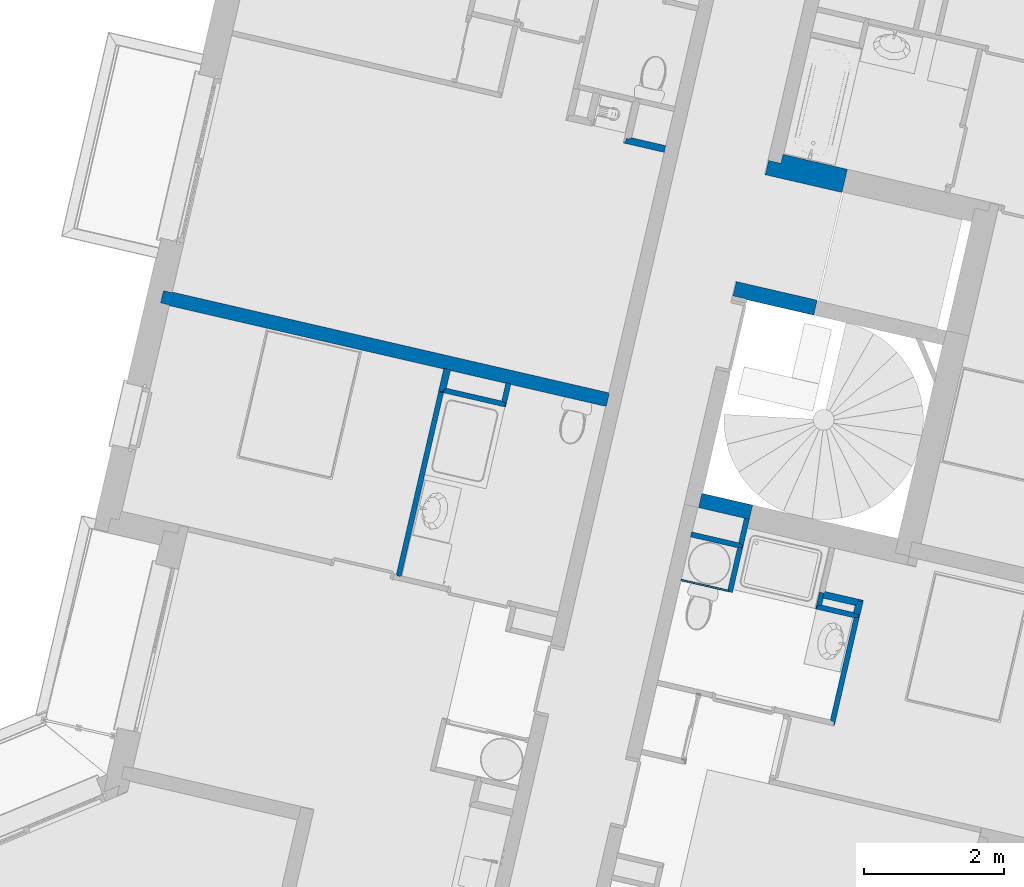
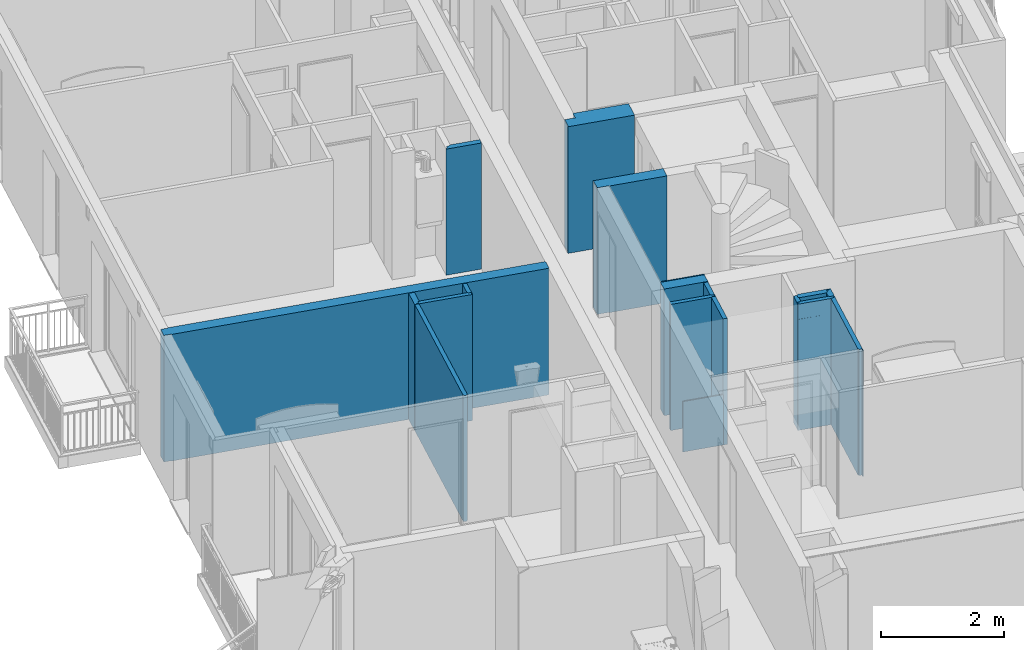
# One storey, part 46 of 90: 18 walls.
"""IFC2X3 building model written with IfcOpenShell, lengths in metres."""

from ifc_helpers import new_model, entity, si_unit, converted_unit, derived_unit, money_unit, direction, frame, origin_with_axes, place, context, subcontext, project, spatial, faceted_brep, material, material_list, type_object, element, save


model = new_model("IFC2X3")

# Units and contexts
model_context = context("Model", 3, precision=1e-05, world=origin_with_axes(), true_north=direction((0.0, 1.0)))
body_context = subcontext(model_context, "Body", "Model", "MODEL_VIEW")
ifc_project = project(units=[si_unit("LENGTHUNIT", "METRE"), si_unit("AREAUNIT", "SQUARE_METRE"), si_unit("VOLUMEUNIT", "CUBIC_METRE"), converted_unit("PLANEANGLEUNIT", "DEGREE", entity("IfcPlaneAngleMeasure", 0.0174532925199), si_unit("PLANEANGLEUNIT", "RADIAN"), dimensions=[0, 0, 0, 0, 0, 0, 0]), si_unit("SOLIDANGLEUNIT", "STERADIAN"), money_unit("EUR"), converted_unit("TIMEUNIT", "Year", entity("IfcTimeMeasure", 31556926.0), si_unit("TIMEUNIT", "SECOND"), dimensions=[0, 0, 1, 0, 0, 0, 0]), si_unit("MASSUNIT", "GRAM", prefix="KILO"), si_unit("THERMODYNAMICTEMPERATUREUNIT", "DEGREE_CELSIUS"), si_unit("LUMINOUSINTENSITYUNIT", "LUMEN"), si_unit("ENERGYUNIT", "JOULE", prefix="MEGA"), derived_unit("THERMALCONDUCTANCEUNIT", [(si_unit("POWERUNIT", "WATT"), 1), (si_unit("LENGTHUNIT", "METRE"), -1), (si_unit("THERMODYNAMICTEMPERATUREUNIT", "KELVIN"), -1)]), derived_unit("SPECIFICHEATCAPACITYUNIT", [(si_unit("ENERGYUNIT", "JOULE"), 1), (si_unit("MASSUNIT", "GRAM", prefix="KILO"), -1), (si_unit("THERMODYNAMICTEMPERATUREUNIT", "KELVIN"), -1)]), derived_unit("MASSDENSITYUNIT", [(si_unit("MASSUNIT", "GRAM", prefix="KILO"), 1), (si_unit("VOLUMEUNIT", "CUBIC_METRE"), -1)])], contexts=[model_context])

# Site, building, storey
site_placement = place(None, origin_with_axes())
site = spatial("IfcSite", under=ifc_project, at=site_placement, Name="Site", CompositionType="ELEMENT")
building_placement = place(site_placement, origin_with_axes())
building = spatial("IfcBuilding", under=site, at=building_placement, Name="Bâtiment", CompositionType="ELEMENT")
storey_placement = place(building_placement, frame((0.0, 0.0, 2.72), z_axis=(0.0, 0.0, 1.0), x_axis=(1.0, 0.0, 0.0)))
storey = spatial("IfcBuildingStorey", under=building, at=storey_placement, Name="R+1", CompositionType="ELEMENT", Elevation=2.72)

# Walls
ifc_material_1 = material(Name="Finition int - Plaque de plâtre")
ifc_material_2 = material(Name="Isolation - Laine de roche")
ifc_material_list_1 = material_list([ifc_material_1, ifc_material_2, ifc_material_1])
wall_type_1 = type_object("IfcWallType", Name="3 - Cloison 72mm Placostil 74", PredefinedType="USERDEFINED")
wall_1_placement = place(storey_placement, frame((-10.6895078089, -9.53207011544, 0.0), z_axis=(0.0, 0.0, 1.0), x_axis=(-0.224876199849, -0.974387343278, 0.0)))
element("IfcWall", 1, at=wall_1_placement, inside=storey, type_object=wall_type_1, material=ifc_material_list_1, Name="Cloison Placostil 72/48", ObjectType="PARTITIONING", context=body_context, shape_type="Brep", body=[
    faceted_brep([(0.63958884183, 0.0, 0.0), (0.0, 0.0, 0.0), (0.0, 0.0, 2.5), (0.63958884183, 4.47035120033e-09, 2.5), (0.63958884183, 4.47035120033e-09, 1.0), (0.63958884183, -0.013, 0.0), (0.0, -0.013, 0.0), (0.0, -0.0130000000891, 2.5), (0.63958884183, -0.0130000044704, 2.5)], [[[0, 1, 2, 3, 4]], [[5, 6, 1, 0]], [[6, 7, 2, 1]], [[3, 2, 7, 8]], [[5, 0, 4, 3, 8]], [[8, 7, 6, 5]]]),
    faceted_brep([(0.63958884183, -0.013, 0.0), (-0.0129999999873, -0.013, 0.0), (-0.0129999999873, -0.013, 2.5), (0.63958884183, -0.0130000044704, 2.5), (0.63958884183, -0.061, 0.0), (-0.0129999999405, -0.061, 0.0), (-0.0129999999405, -0.0609999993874, 2.5), (0.63958884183, -0.0609999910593, 2.5)], [[[0, 1, 2, 3]], [[4, 5, 1, 0]], [[5, 6, 2, 1]], [[3, 2, 6, 7]], [[4, 0, 3, 7]], [[7, 6, 5, 4]]]),
    faceted_brep([(0.63958884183, -0.0609999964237, 1.0), (0.61958884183, -0.0609999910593, 1.0), (0.61958884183, -0.061, 0.0), (0.0, -0.061, 0.0), (0.0, -0.0609999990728, 2.5), (0.63958884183, -0.0609999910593, 2.5), (0.61958884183, -0.074, 1.0), (0.63958884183, -0.074, 1.0), (0.61958884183, -0.074, 0.0), (0.0, -0.074, 0.0), (0.0, -0.074, 2.5), (0.63958884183, -0.074, 2.5)], [[[0, 1, 2, 3, 4, 5]], [[6, 1, 0, 7]], [[8, 2, 1, 6]], [[3, 2, 8, 9]], [[9, 10, 4, 3]], [[5, 4, 10, 11]], [[11, 7, 0, 5]], [[8, 6, 7, 11, 10, 9]]]),
])
wall_2_placement = place(storey_placement, frame((-9.0970696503, -10.5163824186, 0.0), z_axis=(0.0, 0.0, 1.0), x_axis=(-0.224876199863, -0.974387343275, 0.0)))
element("IfcWall", 2, at=wall_2_placement, inside=storey, type_object=wall_type_1, material=ifc_material_list_1, Name="Cloison Placostil 72/48", ObjectType="PARTITIONING", context=body_context, shape_type="Brep", body=[
    faceted_brep([(1.55916609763, 0.074, 0.0), (1.55916609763, 0.061, 0.0), (-0.060999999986, 0.061, 0.0), (-0.060999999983, 0.074, 0.0), (1.55916609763, 0.074, 2.5), (1.55916609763, 0.061, 2.5), (-0.060999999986, 0.061, 2.5), (-0.060999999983, 0.074, 2.5)], [[[0, 1, 2, 3]], [[1, 0, 4, 5]], [[1, 5, 6, 2]], [[7, 3, 2, 6]], [[4, 0, 3, 7]], [[5, 4, 7, 6]]]),
    faceted_brep([(1.51116609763, 0.061, 0.0), (1.51116609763, 0.013, 0.0), (-0.012999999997, 0.013, 0.0), (-0.012999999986, 0.061, 0.0), (1.51116609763, 0.061, 2.5), (1.51116609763, 0.013, 2.5), (-0.012999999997, 0.013, 2.5), (-0.012999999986, 0.061, 2.5)], [[[0, 1, 2, 3]], [[1, 0, 4, 5]], [[1, 5, 6, 2]], [[7, 3, 2, 6]], [[4, 0, 3, 7]], [[5, 4, 7, 6]]]),
    faceted_brep([(1.49816609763, 0.013, 0.0), (1.49816609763, 0.0, 0.0), (0.0, 0.0, 0.0), (0.0, 0.013, 0.0), (1.49816609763, 0.013, 2.5), (1.49816609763, 0.0, 2.5), (0.0, 0.0, 2.5), (0.0, 0.013, 2.5)], [[[0, 1, 2, 3]], [[1, 0, 4, 5]], [[1, 5, 6, 2]], [[7, 3, 2, 6]], [[4, 0, 3, 7]], [[5, 4, 7, 6]]]),
])
wall_3_placement = place(storey_placement, frame((-14.9622417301, -7.30105524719, 0.0), z_axis=(0.0, 0.0, 1.0), x_axis=(-0.224876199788, -0.974387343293, 0.0)))
element("IfcWall", 3, at=wall_3_placement, inside=storey, type_object=wall_type_1, material=ifc_material_list_1, Name="Cloison Placostil 72/48", ObjectType="PARTITIONING", context=body_context, shape_type="Brep", body=[
    faceted_brep([(2.68446720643, -0.013, 2.5), (2.68446720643, 0.0, 2.5), (0.0, 0.0, 2.5), (0.0, -0.013, 2.5), (2.68446720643, -0.013, 0.0), (2.68446720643, 0.0, 0.0), (0.0, 0.0, 0.0), (0.0, -0.013, 0.0)], [[[0, 1, 2, 3]], [[1, 0, 4, 5]], [[1, 5, 6, 2]], [[7, 3, 2, 6]], [[4, 0, 3, 7]], [[5, 4, 7, 6]]]),
    faceted_brep([(2.69746720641, -0.061, 2.5), (2.69746720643, -0.013, 2.5), (0.0, -0.013, 2.5), (0.0, -0.061, 2.5), (2.69746720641, -0.061, 0.0), (2.69746720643, -0.013, 0.0), (0.0, -0.013, 0.0), (0.0, -0.061, 0.0)], [[[0, 1, 2, 3]], [[1, 0, 4, 5]], [[1, 5, 6, 2]], [[7, 3, 2, 6]], [[4, 0, 3, 7]], [[5, 4, 7, 6]]]),
    faceted_brep([(2.68446720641, -0.074, 2.5), (2.68446720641, -0.061, 2.5), (0.0, -0.061, 2.5), (0.0, -0.074, 2.5), (2.68446720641, -0.074, 0.0), (2.68446720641, -0.061, 0.0), (0.0, -0.061, 0.0), (0.0, -0.074, 0.0)], [[[0, 1, 2, 3]], [[1, 0, 4, 5]], [[1, 5, 6, 2]], [[7, 3, 2, 6]], [[4, 0, 3, 7]], [[5, 4, 7, 6]]]),
])
ifc_material_3 = material(Name="Finition int - Enduit plâtre")
ifc_material_4 = material(Name="Béton")
ifc_material_list_2 = material_list([ifc_material_3, ifc_material_4, ifc_material_3])
wall_type_2 = type_object("IfcWallType", Name="2 - Murs Béton 18 + Enduit 2 Faces 200", PredefinedType="USERDEFINED")
wall_4_placement = place(storey_placement, frame((-19.2167882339, -5.96817026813, 0.0), z_axis=(0.0, 0.0, 1.0), x_axis=(0.97438734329, -0.224876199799, 0.0)))
element("IfcWall", 4, at=wall_4_placement, inside=storey, type_object=wall_type_2, material=ifc_material_list_2, Name="M_Ext-008", ObjectType="SOLIDWALL", context=body_context, shape_type="Brep", body=[
    faceted_brep([(6.7453103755, 0.19, 0.0), (0.34499998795, 0.19, 0.0), (0.34499998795, 0.19, 2.51), (6.7453103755, 0.19, 2.5100000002), (6.7453103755, 0.18, 0.0), (0.344999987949, 0.18, 0.0), (0.344999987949, 0.18, 2.51), (6.7453103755, 0.18, 2.5100000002)], [[[0, 1, 2, 3]], [[4, 5, 1, 0]], [[5, 6, 2, 1]], [[3, 2, 6, 7]], [[4, 0, 3, 7]], [[7, 6, 5, 4]]]),
    faceted_brep([(6.7553103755, 0.18, 0.0), (0.214999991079, 0.18, 0.0), (0.214999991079, 0.18, 2.50999999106), (6.7553103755, 0.18, 2.5100000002), (6.75531037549, 0.0, 0.0), (0.214999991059, 0.0, 0.0), (0.214999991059, 0.0, 2.50999999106), (6.75531037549, 0.0, 2.5100000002)], [[[0, 1, 2, 3]], [[4, 5, 1, 0]], [[5, 6, 2, 1]], [[3, 2, 6, 7]], [[4, 0, 3, 7]], [[7, 6, 5, 4]]]),
    faceted_brep([(5.35531037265, -0.01, 2.5), (5.28131037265, -0.01, 2.5), (5.28131037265, 0.0, 2.5), (5.35531037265, 0.0, 2.5), (5.28131037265, -0.01, 0.0), (5.35531037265, -0.01, 0.0), (6.74531037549, -0.01, 0.0), (6.74531037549, -0.01, 2.5100000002), (0.344999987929, -0.01, 2.51), (0.344999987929, -0.00999999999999, 0.0), (4.36931037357, -0.01, 0.0), (4.36931037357, -0.01, 2.5), (4.46931037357, -0.01, 2.5), (4.46931037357, -0.01, 0.0), (5.28131037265, 0.0, 0.0), (4.46931037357, 0.0, 0.0), (4.46931037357, 0.0, 2.5), (4.36931037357, 0.0, 2.5), (4.36931037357, 0.0, 0.0), (0.34499998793, 0.0, 0.0), (0.34499998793, 0.0, 2.51), (6.74531037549, 0.0, 2.5100000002), (6.74531037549, 0.0, 0.0), (5.35531037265, 0.0, 0.0)], [[[0, 1, 2, 3]], [[4, 1, 0, 5, 6, 7, 8, 9, 10, 11, 12, 13]], [[4, 14, 2, 1]], [[2, 14, 15, 16, 17, 18, 19, 20, 21, 22, 23, 3]], [[0, 3, 23, 5]], [[6, 5, 23, 22]], [[6, 22, 21, 7]], [[21, 20, 8, 7]], [[9, 8, 20, 19]], [[19, 18, 10, 9]], [[10, 18, 17, 11]], [[17, 16, 12, 11]], [[12, 16, 15, 13]], [[15, 14, 4, 13]]]),
])
wall_type_3 = type_object("IfcWallType", Name="2 - Murs Béton 20 + Enduit 2 Faces  220", PredefinedType="USERDEFINED")
wall_5_placement = place(storey_placement, frame((-9.62496216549, -5.98665355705, 0.0), z_axis=(0.0, 0.0, 1.0), x_axis=(-0.974387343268, 0.224876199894, 0.0)))
element("IfcWall", 5, at=wall_5_placement, inside=storey, type_object=wall_type_3, material=ifc_material_list_2, Name="M_Ext-009", ObjectType="SOLIDWALL", context=body_context, shape_type="Brep", body=[
    faceted_brep([(0.984999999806, 0.21, 0.0), (0.98499999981, 0.2, 0.0), (0.0, 0.2, 0.0), (0.0, 0.21, 0.0), (0.984999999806, 0.21, 2.51), (0.98499999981, 0.2, 2.51), (0.0, 0.2, 2.51), (0.0, 0.21, 2.51)], [[[0, 1, 2, 3]], [[1, 0, 4, 5]], [[1, 5, 6, 2]], [[7, 3, 2, 6]], [[4, 0, 3, 7]], [[5, 4, 7, 6]]]),
    faceted_brep([(1.18499999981, 0.2, 0.0), (1.18499999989, 0.0, 0.0), (0.0, 0.0, 0.0), (0.0, 0.2, 0.0), (1.18499999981, 0.2, 2.51), (1.18499999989, 0.0, 2.51), (0.0, 0.0, 2.51), (0.0, 0.2, 2.51)], [[[0, 1, 2, 3]], [[1, 0, 4, 5]], [[1, 5, 6, 2]], [[7, 3, 2, 6]], [[4, 0, 3, 7]], [[5, 4, 7, 6]]]),
    faceted_brep([(1.19499999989, 0.0, 0.0), (1.19499999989, -0.01, 0.0), (0.0, -0.01, 0.0), (0.0, 0.0, 0.0), (1.19499999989, 0.0, 2.51), (1.19499999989, -0.01, 2.51), (0.0, -0.01, 2.51), (0.0, 0.0, 2.51)], [[[0, 1, 2, 3]], [[1, 0, 4, 5]], [[1, 5, 6, 2]], [[7, 3, 2, 6]], [[4, 0, 3, 7]], [[5, 4, 7, 6]]]),
])
wall_type_4 = type_object("IfcWallType", Name="3 - Cloison Gaine Technique 72mm 74", PredefinedType="USERDEFINED")
wall_6_placement = place(storey_placement, frame((-9.58988042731, -10.1481290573, 0.0), z_axis=(0.0, 0.0, 1.0), x_axis=(-0.224876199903, -0.974387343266, 0.0)))
element("IfcWall", 6, at=wall_6_placement, inside=storey, type_object=wall_type_4, material=ifc_material_list_1, Name="Cloison Placostil 72/48", ObjectType="PARTITIONING", context=body_context, shape_type="Brep", body=[
    faceted_brep([(0.173999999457, 0.074, 0.0), (0.173999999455, 0.061, 0.0), (0.0610000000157, 0.061, 0.0), (0.0610000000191, 0.074, 0.0), (0.173999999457, 0.074, 2.5), (0.173999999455, 0.061, 2.5), (0.0610000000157, 0.061, 2.5), (0.0610000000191, 0.074, 2.5)], [[[0, 1, 2, 3]], [[1, 0, 4, 5]], [[1, 5, 6, 2]], [[7, 3, 2, 6]], [[4, 0, 3, 7]], [[5, 4, 7, 6]]]),
    faceted_brep([(0.186999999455, 0.061, 0.0), (0.186999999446, 0.013, 0.0), (0.0, 0.013, 0.0), (0.0, 0.061, 0.0), (0.186999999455, 0.061, 2.5), (0.186999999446, 0.013, 2.5), (0.0, 0.013, 2.5), (0.0, 0.061, 2.5)], [[[0, 1, 2, 3]], [[1, 0, 4, 5]], [[1, 5, 6, 2]], [[7, 3, 2, 6]], [[4, 0, 3, 7]], [[5, 4, 7, 6]]]),
    faceted_brep([(0.234999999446, 0.013, 0.0), (0.234999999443, 0.0, 0.0), (0.0, 0.0, 0.0), (0.0, 0.013, 0.0), (0.234999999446, 0.013, 2.5), (0.234999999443, 0.0, 2.5), (0.0, 0.0, 2.5), (0.0, 0.013, 2.5)], [[[0, 1, 2, 3]], [[1, 0, 4, 5]], [[1, 5, 6, 2]], [[7, 3, 2, 6]], [[4, 0, 3, 7]], [[5, 4, 7, 6]]]),
])
wall_7_placement = place(storey_placement, frame((-9.64564972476, -10.3897771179, 0.0), z_axis=(0.0, 0.0, 1.0), x_axis=(0.974387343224, -0.224876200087, 0.0)))
element("IfcWall", 7, at=wall_7_placement, inside=storey, type_object=wall_type_4, material=ifc_material_list_1, Name="Cloison Placostil 72/48", ObjectType="PARTITIONING", context=body_context, shape_type="Brep", body=[
    faceted_brep([(0.637000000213, 0.074, 0.0), (0.637000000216, 0.061, 0.0), (0.626000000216, 0.061, 0.0), (0.626000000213, 0.074, 0.0), (0.637000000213, 0.074, 2.5), (0.637000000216, 0.061, 2.5), (0.626000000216, 0.061, 2.5), (0.626000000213, 0.074, 2.5)], [[[0, 1, 2, 3]], [[1, 0, 4, 5]], [[1, 5, 6, 2]], [[7, 3, 2, 6]], [[4, 0, 3, 7]], [[5, 4, 7, 6]]]),
    faceted_brep([(0.552000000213, 0.074, 0.0), (0.552000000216, 0.061, 0.0), (0.0609999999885, 0.061, 0.0), (0.0609999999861, 0.074, 0.0), (0.552000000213, 0.074, 2.5), (0.552000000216, 0.061, 2.5), (0.0609999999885, 0.061, 2.5), (0.0609999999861, 0.074, 2.5)], [[[0, 1, 2, 3]], [[1, 0, 4, 5]], [[1, 5, 6, 2]], [[7, 3, 2, 6]], [[4, 0, 3, 7]], [[5, 4, 7, 6]]]),
    faceted_brep([(0.624000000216, 0.061, 0.0), (0.624000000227, 0.013, 0.0), (0.0129999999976, 0.013, 0.0), (0.0129999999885, 0.061, 0.0), (0.624000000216, 0.061, 2.5), (0.624000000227, 0.013, 2.5), (0.0129999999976, 0.013, 2.5), (0.0129999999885, 0.061, 2.5)], [[[0, 1, 2, 3]], [[1, 0, 4, 5]], [[1, 5, 6, 2]], [[7, 3, 2, 6]], [[4, 0, 3, 7]], [[5, 4, 7, 6]]]),
    faceted_brep([(0.0, 0.00317540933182, 2.5), (0.56300000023, 0.0, 2.5), (0.57600000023, 0.0, 2.5), (0.576000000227, 0.013, 2.5), (0.0, 0.013, 2.5), (0.0, 0.00317540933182, 2.2), (0.56300000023, 0.0, 2.2), (0.0, 0.0, 2.2), (0.0, 0.0, 0.0), (0.57600000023, 0.0, 0.0), (0.576000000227, 0.013, 0.0), (0.0, 0.013, 0.0)], [[[0, 1, 2, 3, 4]], [[1, 0, 5, 6]], [[6, 7, 8, 9, 2, 1]], [[9, 10, 3, 2]], [[3, 10, 11, 4]], [[5, 0, 4, 11, 8, 7]], [[7, 6, 5]], [[10, 9, 8, 11]]]),
])
wall_8_placement = place(storey_placement, frame((-10.689507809, -9.53207011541, 0.0), z_axis=(0.0, 0.0, 1.0), x_axis=(-0.974387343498, 0.224876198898, 0.0)))
element("IfcWall", 8, at=wall_8_placement, inside=storey, type_object=wall_type_4, material=ifc_material_list_1, Name="Cloison Placostil 72/48", ObjectType="PARTITIONING", context=body_context, shape_type="Brep", body=[
    faceted_brep([(0.764999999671, 0.0, 2.5), (0.0609999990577, 0.0, 2.5), (0.060999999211, -0.013, 2.5), (0.764999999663, -0.013, 2.5), (0.764999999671, 0.0, 0.0), (0.0609999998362, 0.0, 0.0), (0.0609999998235, -0.013, 0.0), (0.764999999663, -0.013, 0.0)], [[[0, 1, 2, 3]], [[4, 5, 1, 0]], [[5, 6, 2, 1]], [[3, 2, 6, 7]], [[4, 0, 3, 7]], [[7, 6, 5, 4]]]),
    faceted_brep([(-1.76479275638e-10, -0.013, 0.0), (0.0129999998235, -0.013, 0.0), (0.0129999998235, -0.013, 2.5), (-1.76479275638e-10, -0.013, 2.5), (-1.63790758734e-10, 0.0, 0.0), (0.0129999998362, 0.0, 0.0), (0.0129999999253, 0.0, 2.5), (-1.63790758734e-10, 0.0, 2.5)], [[[0, 1, 2, 3]], [[4, 5, 1, 0]], [[5, 6, 2, 1]], [[3, 2, 6, 7]], [[4, 0, 3, 7]], [[7, 6, 5, 4]]]),
    faceted_brep([(0.0129999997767, -0.061, 2.5), (0.764999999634, -0.061, 2.5), (0.764999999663, -0.013, 2.5), (0.0129999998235, -0.013, 2.5), (0.0129999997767, -0.061, 0.0), (0.764999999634, -0.061, 0.0), (0.764999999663, -0.013, 0.0), (0.0129999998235, -0.013, 0.0)], [[[0, 1, 2, 3]], [[4, 5, 1, 0]], [[6, 2, 1, 5]], [[3, 2, 6, 7]], [[7, 4, 0, 3]], [[7, 6, 5, 4]]]),
    faceted_brep([(0.764999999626, -0.074, 2.5), (0.764999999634, -0.061, 2.5), (0.0609999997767, -0.061, 2.5), (0.060999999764, -0.074, 2.5), (0.764999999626, -0.074, 0.0), (0.764999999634, -0.061, 0.0), (0.0609999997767, -0.061, 0.0), (0.060999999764, -0.074, 0.0)], [[[0, 1, 2, 3]], [[1, 0, 4, 5]], [[1, 5, 6, 2]], [[7, 3, 2, 6]], [[4, 0, 3, 7]], [[5, 4, 7, 6]]]),
])
wall_9_placement = place(storey_placement, frame((-10.5919115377, -9.10918600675, 0.0), z_axis=(0.0, 0.0, 1.0), x_axis=(-0.224876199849, -0.974387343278, 0.0)))
element("IfcWall", 9, at=wall_9_placement, inside=storey, type_object=wall_type_4, material=ifc_material_list_1, Name="Cloison Placostil 72/48", ObjectType="PARTITIONING", context=body_context, shape_type="Brep", body=[
    faceted_brep([(0.0, -0.013, 2.5), (0.421000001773, -0.013, 2.5), (0.421000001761, 0.0, 2.5), (0.0, 0.0, 2.5), (0.0, -0.013, 0.0), (0.421000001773, -0.013, 0.0), (0.421000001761, 0.0, 0.0), (0.0, 0.0, 0.0)], [[[0, 1, 2, 3]], [[4, 5, 1, 0]], [[6, 2, 1, 5]], [[3, 2, 6, 7]], [[7, 4, 0, 3]], [[7, 6, 5, 4]]]),
    faceted_brep([(0.37300000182, -0.061, 2.5), (0.373000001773, -0.013, 2.5), (0.0, -0.013, 2.5), (0.0, -0.061, 2.5), (0.37300000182, -0.061, 0.0), (0.373000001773, -0.013, 0.0), (0.0, -0.013, 0.0), (0.0, -0.061, 0.0)], [[[0, 1, 2, 3]], [[1, 0, 4, 5]], [[1, 5, 6, 2]], [[7, 3, 2, 6]], [[4, 0, 3, 7]], [[5, 4, 7, 6]]]),
    faceted_brep([(0.360000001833, -0.074, 2.5), (0.36000000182, -0.061, 2.5), (0.0, -0.061, 2.5), (0.0, -0.074, 2.5), (0.360000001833, -0.074, 0.0), (0.36000000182, -0.061, 0.0), (0.0, -0.061, 0.0), (0.0, -0.074, 0.0)], [[[0, 1, 2, 3]], [[1, 0, 4, 5]], [[1, 5, 6, 2]], [[7, 3, 2, 6]], [[4, 0, 3, 7]], [[5, 4, 7, 6]]]),
])
wall_10_placement = place(storey_placement, frame((-14.9388564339, -7.306452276, 0.0), z_axis=(0.0, 0.0, 1.0), x_axis=(0.974387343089, -0.22487620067, 0.0)))
element("IfcWall", 10, at=wall_10_placement, inside=storey, type_object=wall_type_4, material=ifc_material_list_1, Name="Cloison Placostil 72/48", ObjectType="PARTITIONING", context=body_context, shape_type="Brep", body=[
    faceted_brep([(0.824999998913, 0.074, 0.0), (0.82499999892, 0.061, 0.0), (0.0, 0.061, 0.0), (0.0, 0.074, 0.0), (0.824999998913, 0.074, 2.5), (0.82499999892, 0.061, 2.5), (0.0, 0.061, 2.5), (0.0, 0.074, 2.5)], [[[0, 1, 2, 3]], [[1, 0, 4, 5]], [[1, 5, 6, 2]], [[7, 3, 2, 6]], [[4, 0, 3, 7]], [[5, 4, 7, 6]]]),
    faceted_brep([(0.87299999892, 0.061, 0.0), (0.872999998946, 0.013, 0.0), (-0.0260000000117, 0.013, 0.0), (-0.026000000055, 0.061, 0.0), (0.87299999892, 0.061, 2.5), (0.872999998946, 0.013, 2.5), (-0.0260000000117, 0.013, 2.5), (-0.026000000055, 0.061, 2.5)], [[[0, 1, 2, 3]], [[1, 0, 4, 5]], [[1, 5, 6, 2]], [[7, 3, 2, 6]], [[4, 0, 3, 7]], [[5, 4, 7, 6]]]),
    faceted_brep([(0.885999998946, 0.013, 0.0), (0.885999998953, 0.0, 0.0), (-0.074, 0.0, 0.0), (-0.0740000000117, 0.013, 0.0), (0.885999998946, 0.013, 2.5), (0.885999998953, 0.0, 2.5), (-0.074, 0.0, 2.5), (-0.0740000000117, 0.013, 2.5)], [[[0, 1, 2, 3]], [[1, 0, 4, 5]], [[1, 5, 6, 2]], [[7, 3, 2, 6]], [[4, 0, 3, 7]], [[5, 4, 7, 6]]]),
])
wall_11_placement = place(storey_placement, frame((-14.075549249, -7.50569258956, 0.0), z_axis=(0.0, 0.0, 1.0), x_axis=(0.224876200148, 0.97438734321, 0.0)))
element("IfcWall", 11, at=wall_11_placement, inside=storey, type_object=wall_type_4, material=ifc_material_list_1, Name="Cloison Placostil 72/48", ObjectType="PARTITIONING", context=body_context, shape_type="Brep", body=[
    faceted_brep([(0.342000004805, 0.074, 0.0), (0.342000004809, 0.061, 0.0), (0.0740000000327, 0.061, 0.0), (0.0740000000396, 0.074, 0.0), (0.342000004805, 0.074, 2.5), (0.342000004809, 0.061, 2.5), (0.0740000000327, 0.061, 2.5), (0.0740000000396, 0.074, 2.5)], [[[0, 1, 2, 3]], [[1, 0, 4, 5]], [[1, 5, 6, 2]], [[7, 3, 2, 6]], [[4, 0, 3, 7]], [[5, 4, 7, 6]]]),
    faceted_brep([(0.342000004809, 0.061, 0.0), (0.342000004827, 0.013, 0.0), (0.061000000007, 0.013, 0.0), (0.0610000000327, 0.061, 0.0), (0.342000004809, 0.061, 2.5), (0.342000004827, 0.013, 2.5), (0.061000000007, 0.013, 2.5), (0.0610000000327, 0.061, 2.5)], [[[0, 1, 2, 3]], [[1, 0, 4, 5]], [[1, 5, 6, 2]], [[7, 3, 2, 6]], [[4, 0, 3, 7]], [[5, 4, 7, 6]]]),
    faceted_brep([(0.342000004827, 0.013, 0.0), (0.342000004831, 0.0, 0.0), (0.013, 0.0, 0.0), (0.013000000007, 0.013, 0.0), (0.342000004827, 0.013, 2.5), (0.342000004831, 0.0, 2.5), (0.013, 0.0, 2.5), (0.013000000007, 0.013, 2.5)], [[[0, 1, 2, 3]], [[1, 0, 4, 5]], [[1, 5, 6, 2]], [[7, 3, 2, 6]], [[4, 0, 3, 7]], [[5, 4, 7, 6]]]),
])
ifc_material_list_3 = material_list([ifc_material_1, ifc_material_1, ifc_material_2, ifc_material_1, ifc_material_1])
wall_type_5 = type_object("IfcWallType", Name="3 - Cloison Gaine Technique 98mm 100", PredefinedType="USERDEFINED")
wall_12_placement = place(storey_placement, frame((-9.08132648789, -10.3414419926, 0.0), z_axis=(0.0, 0.0, 1.0), x_axis=(-0.224876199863, -0.974387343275, 0.0)))
element("IfcWall", 12, at=wall_12_placement, inside=storey, type_object=wall_type_5, material=ifc_material_list_3, Name="Cloison 98 isolée", ObjectType="PARTITIONING", context=body_context, shape_type="Brep", body=[
    faceted_brep([(0.0999999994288, 0.1, 0.0), (0.0999999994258, 0.087, 0.0), (-0.0999999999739, 0.087, 0.0), (-0.09999999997, 0.1, 0.0), (0.0999999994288, 0.1, 2.5), (0.0999999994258, 0.087, 2.5), (-0.0999999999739, 0.087, 2.5), (-0.09999999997, 0.1, 2.5)], [[[0, 1, 2, 3]], [[1, 0, 4, 5]], [[1, 5, 6, 2]], [[7, 3, 2, 6]], [[4, 0, 3, 7]], [[5, 4, 7, 6]]]),
    faceted_brep([(0.112999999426, 0.087, 0.0), (0.112999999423, 0.074, 0.0), (-0.0869999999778, 0.074, 0.0), (-0.0869999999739, 0.087, 0.0), (0.112999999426, 0.087, 2.5), (0.112999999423, 0.074, 2.5), (-0.0869999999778, 0.074, 2.5), (-0.0869999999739, 0.087, 2.5)], [[[0, 1, 2, 3]], [[1, 0, 4, 5]], [[1, 5, 6, 2]], [[7, 3, 2, 6]], [[4, 0, 3, 7]], [[5, 4, 7, 6]]]),
    faceted_brep([(0.112999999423, 0.074, 0.0), (0.112999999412, 0.026, 0.0), (-0.0739999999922, 0.026, 0.0), (-0.0739999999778, 0.074, 0.0), (0.112999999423, 0.074, 2.5), (0.112999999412, 0.026, 2.5), (-0.0739999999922, 0.026, 2.5), (-0.0739999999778, 0.074, 2.5)], [[[0, 1, 2, 3]], [[1, 0, 4, 5]], [[1, 5, 6, 2]], [[7, 3, 2, 6]], [[4, 0, 3, 7]], [[5, 4, 7, 6]]]),
    faceted_brep([(0.112999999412, 0.026, 0.0), (0.112999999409, 0.013, 0.0), (-0.0259999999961, 0.013, 0.0), (-0.0259999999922, 0.026, 0.0), (0.112999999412, 0.026, 2.5), (0.112999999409, 0.013, 2.5), (-0.0259999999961, 0.013, 2.5), (-0.0259999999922, 0.026, 2.5)], [[[0, 1, 2, 3]], [[1, 0, 4, 5]], [[1, 5, 6, 2]], [[7, 3, 2, 6]], [[4, 0, 3, 7]], [[5, 4, 7, 6]]]),
    faceted_brep([(0.0999999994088, 0.013, 0.0), (0.0999999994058, 0.0, 0.0), (-0.013, 0.0, 0.0), (-0.0129999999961, 0.013, 0.0), (0.0999999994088, 0.013, 2.5), (0.0999999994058, 0.0, 2.5), (-0.013, 0.0, 2.5), (-0.0129999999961, 0.013, 2.5)], [[[0, 1, 2, 3]], [[1, 0, 4, 5]], [[1, 5, 6, 2]], [[7, 3, 2, 6]], [[4, 0, 3, 7]], [[5, 4, 7, 6]]]),
])
wall_13_placement = place(storey_placement, frame((-9.60652126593, -10.2202337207, 0.0), z_axis=(0.0, 0.0, 1.0), x_axis=(0.974387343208, -0.224876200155, 0.0)))
element("IfcWall", 13, at=wall_13_placement, inside=storey, type_object=wall_type_5, material=ifc_material_list_3, Name="Cloison 98 isolée", ObjectType="PARTITIONING", context=body_context, shape_type="Brep", body=[
    faceted_brep([(0.626000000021, 0.1, 0.0), (0.626000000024, 0.087, 0.0), (0.0739999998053, 0.087, 0.0), (0.0739999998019, 0.1, 0.0), (0.626000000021, 0.1, 2.5), (0.626000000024, 0.087, 2.5), (0.0739999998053, 0.087, 2.5), (0.0739999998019, 0.1, 2.5)], [[[0, 1, 2, 3]], [[1, 0, 4, 5]], [[1, 5, 6, 2]], [[7, 3, 2, 6]], [[4, 0, 3, 7]], [[5, 4, 7, 6]]]),
    faceted_brep([(0.613000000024, 0.087, 0.0), (0.613000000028, 0.074, 0.0), (0.0609999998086, 0.074, 0.0), (0.0609999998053, 0.087, 0.0), (0.613000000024, 0.087, 2.5), (0.613000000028, 0.074, 2.5), (0.0609999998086, 0.074, 2.5), (0.0609999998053, 0.087, 2.5)], [[[0, 1, 2, 3]], [[1, 0, 4, 5]], [[1, 5, 6, 2]], [[7, 3, 2, 6]], [[4, 0, 3, 7]], [[5, 4, 7, 6]]]),
    faceted_brep([(0.565000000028, 0.074, 0.0), (0.565000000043, 0.026, 0.0), (0.060999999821, 0.026, 0.0), (0.0609999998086, 0.074, 0.0), (0.565000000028, 0.074, 2.5), (0.565000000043, 0.026, 2.5), (0.060999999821, 0.026, 2.5), (0.0609999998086, 0.074, 2.5)], [[[0, 1, 2, 3]], [[1, 0, 4, 5]], [[1, 5, 6, 2]], [[7, 3, 2, 6]], [[4, 0, 3, 7]], [[5, 4, 7, 6]]]),
    faceted_brep([(0.552000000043, 0.026, 0.0), (0.552000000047, 0.013, 0.0), (0.0609999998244, 0.013, 0.0), (0.060999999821, 0.026, 0.0), (0.552000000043, 0.026, 2.5), (0.552000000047, 0.013, 2.5), (0.0609999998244, 0.013, 2.5), (0.060999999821, 0.026, 2.5)], [[[0, 1, 2, 3]], [[1, 0, 4, 5]], [[1, 5, 6, 2]], [[7, 3, 2, 6]], [[4, 0, 3, 7]], [[5, 4, 7, 6]]]),
    faceted_brep([(0.539000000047, 0.013, 0.0), (0.539000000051, 0.0, 0.0), (0.0739999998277, 0.0, 0.0), (0.0739999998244, 0.013, 0.0), (0.539000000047, 0.013, 2.5), (0.539000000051, 0.0, 2.5), (0.0739999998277, 0.0, 2.5), (0.0739999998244, 0.013, 2.5)], [[[0, 1, 2, 3]], [[1, 0, 4, 5]], [[1, 5, 6, 2]], [[7, 3, 2, 6]], [[4, 0, 3, 7]], [[5, 4, 7, 6]]]),
])
wall_14_placement = place(storey_placement, frame((-14.8619487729, -6.97321180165, 0.0), z_axis=(0.0, 0.0, 1.0), x_axis=(-0.224876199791, -0.974387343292, 0.0)))
element("IfcWall", 14, at=wall_14_placement, inside=storey, type_object=wall_type_5, material=ifc_material_list_3, Name="Cloison 98 isolée", ObjectType="PARTITIONING", context=body_context, shape_type="Brep", body=[
    faceted_brep([(0.281000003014, -0.013, 2.5), (0.281000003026, 0.0, 2.5), (-1.01377395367e-09, 0.0, 2.5), (-1.0138840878e-09, -0.013, 2.5), (0.281000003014, -0.013, 0.0), (0.281000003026, 0.0, 0.0), (-1.01377395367e-09, 0.0, 0.0), (-1.0138840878e-09, -0.013, 0.0)], [[[0, 1, 2, 3]], [[1, 0, 4, 5]], [[1, 5, 6, 2]], [[7, 3, 2, 6]], [[4, 0, 3, 7]], [[5, 4, 7, 6]]]),
    faceted_brep([(0.281000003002, -0.026, 2.5), (0.281000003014, -0.013, 2.5), (-1.0138840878e-09, -0.013, 2.5), (-1.01399422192e-09, -0.026, 2.5), (0.281000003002, -0.026, 0.0), (0.281000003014, -0.013, 0.0), (-1.0138840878e-09, -0.013, 0.0), (-1.01399422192e-09, -0.026, 0.0)], [[[0, 1, 2, 3]], [[1, 0, 4, 5]], [[1, 5, 6, 2]], [[7, 3, 2, 6]], [[4, 0, 3, 7]], [[5, 4, 7, 6]]]),
    faceted_brep([(0.329000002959, -0.074, 2.5), (0.329000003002, -0.026, 2.5), (-1.01399422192e-09, -0.026, 2.5), (-1.01439567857e-09, -0.074, 2.5), (0.329000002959, -0.074, 0.0), (0.329000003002, -0.026, 0.0), (-1.01399422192e-09, -0.026, 0.0), (-1.01439567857e-09, -0.074, 0.0)], [[[0, 1, 2, 3]], [[1, 0, 4, 5]], [[1, 5, 6, 2]], [[7, 3, 2, 6]], [[4, 0, 3, 7]], [[5, 4, 7, 6]]]),
    faceted_brep([(0.342000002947, -0.087, 2.5), (0.342000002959, -0.074, 2.5), (-1.01439567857e-09, -0.074, 2.5), (-1.01450581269e-09, -0.087, 2.5), (0.342000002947, -0.087, 0.0), (0.342000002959, -0.074, 0.0), (-1.01439567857e-09, -0.074, 0.0), (-1.01450581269e-09, -0.087, 0.0)], [[[0, 1, 2, 3]], [[1, 0, 4, 5]], [[1, 5, 6, 2]], [[7, 3, 2, 6]], [[4, 0, 3, 7]], [[5, 4, 7, 6]]]),
    faceted_brep([(0.342000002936, -0.1, 2.5), (0.342000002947, -0.087, 2.5), (-1.01450581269e-09, -0.087, 2.5), (-1.01461417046e-09, -0.1, 2.5), (0.342000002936, -0.1, 0.0), (0.342000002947, -0.087, 0.0), (-1.01450581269e-09, -0.087, 0.0), (-1.01461417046e-09, -0.1, 0.0)], [[[0, 1, 2, 3]], [[1, 0, 4, 5]], [[1, 5, 6, 2]], [[7, 3, 2, 6]], [[4, 0, 3, 7]], [[5, 4, 7, 6]]]),
])
wall_15_placement = place(storey_placement, frame((-11.808762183, -3.86489545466, 0.0), z_axis=(0.0, 0.0, 1.0), x_axis=(-0.974387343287, 0.224876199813, 0.0)))
element("IfcWall", 15, at=wall_15_placement, inside=storey, type_object=wall_type_5, material=ifc_material_list_3, Name="Cloison 98 isolée", ObjectType="PARTITIONING", context=body_context, shape_type="Brep", body=[
    faceted_brep([(0.599999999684, -0.013, 2.5), (0.599999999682, 0.0, 2.5), (0.0, 0.0, 2.5), (0.0, -0.013, 2.5), (0.599999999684, -0.013, 0.0), (0.599999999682, 0.0, 0.0), (0.0, 0.0, 0.0), (0.0, -0.013, 0.0)], [[[0, 1, 2, 3]], [[1, 0, 4, 5]], [[1, 5, 6, 2]], [[7, 3, 2, 6]], [[4, 0, 3, 7]], [[5, 4, 7, 6]]]),
    faceted_brep([(0.586999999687, -0.026, 2.5), (0.586999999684, -0.013, 2.5), (0.0, -0.013, 2.5), (0.0, -0.026, 2.5), (0.586999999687, -0.026, 0.0), (0.586999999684, -0.013, 0.0), (0.0, -0.013, 0.0), (0.0, -0.026, 0.0)], [[[0, 1, 2, 3]], [[1, 0, 4, 5]], [[1, 5, 6, 2]], [[7, 3, 2, 6]], [[4, 0, 3, 7]], [[5, 4, 7, 6]]]),
    faceted_brep([(0.573999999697, -0.074, 2.5), (0.573999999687, -0.026, 2.5), (0.0, -0.026, 2.5), (0.0, -0.074, 2.5), (0.573999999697, -0.074, 0.0), (0.573999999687, -0.026, 0.0), (0.0, -0.026, 0.0), (0.0, -0.074, 0.0)], [[[0, 1, 2, 3]], [[1, 0, 4, 5]], [[1, 5, 6, 2]], [[7, 3, 2, 6]], [[4, 0, 3, 7]], [[5, 4, 7, 6]]]),
    faceted_brep([(0.5259999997, -0.087, 2.5), (0.525999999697, -0.074, 2.5), (0.0, -0.074, 2.5), (0.0, -0.087, 2.5), (0.5259999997, -0.087, 0.0), (0.525999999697, -0.074, 0.0), (0.0, -0.074, 0.0), (0.0, -0.087, 0.0)], [[[0, 1, 2, 3]], [[1, 0, 4, 5]], [[1, 5, 6, 2]], [[7, 3, 2, 6]], [[4, 0, 3, 7]], [[5, 4, 7, 6]]]),
    faceted_brep([(0.512999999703, -0.1, 2.5), (0.5129999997, -0.087, 2.5), (0.0, -0.087, 2.5), (0.0, -0.1, 2.5), (0.512999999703, -0.1, 0.0), (0.5129999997, -0.087, 0.0), (0.0, -0.087, 0.0), (0.0, -0.1, 0.0)], [[[0, 1, 2, 3]], [[1, 0, 4, 5]], [[1, 5, 6, 2]], [[7, 3, 2, 6]], [[4, 0, 3, 7]], [[5, 4, 7, 6]]]),
])
ifc_material_list_4 = material_list([ifc_material_4, ifc_material_3])
wall_type_6 = type_object("IfcWallType", Name="2 - Murs Béton 20 + Enduit 1 Face  210", PredefinedType="USERDEFINED")
wall_16_placement = place(storey_placement, frame((-10.5469362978, -8.91430853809, 0.0), z_axis=(0.0, 0.0, 1.0), x_axis=(-0.974387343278, 0.224876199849, 0.0)))
element("IfcWall", 16, at=wall_16_placement, inside=storey, type_object=wall_type_6, material=ifc_material_list_4, Name="M_Ext-009", ObjectType="SOLIDWALL", context=body_context, shape_type="Brep", body=[
    faceted_brep([(0.745000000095, 1.89254656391e-09, 2.51), (0.0, 1.63015201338e-09, 2.51), (0.0, 0.0, 0.0), (0.745000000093, 0.0, 0.0), (0.0, 0.2, 2.51), (0.745000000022, 0.2, 2.51), (0.0, 0.2, 0.0), (0.745000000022, 0.2, 0.0)], [[[0, 1, 2, 3]], [[4, 1, 0, 5]], [[1, 4, 6, 2]], [[7, 3, 2, 6]], [[5, 0, 3, 7]], [[4, 5, 7, 6]]]),
    faceted_brep([(0.735000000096, -0.01, 2.52), (0.735000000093, 0.0, 2.52), (0.0, 0.0, 2.52), (0.0, -0.01, 2.52), (0.735000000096, -0.01, 0.0), (0.735000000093, 0.0, 0.0), (0.0, 0.0, 0.0), (0.0, -0.01, 0.0)], [[[0, 1, 2, 3]], [[1, 0, 4, 5]], [[1, 5, 6, 2]], [[7, 3, 2, 6]], [[4, 0, 3, 7]], [[5, 4, 7, 6]]]),
])
ifc_material_5 = material(Name="Isolation - Polystyrène extrudé")
ifc_material_list_5 = material_list([ifc_material_3, ifc_material_4, ifc_material_5, ifc_material_1])
wall_type_7 = type_object("IfcWallType", Name="2 - Murs Béton 20 + Isolant 120 + Enduit 1 Faces 340", PredefinedType="USERDEFINED")
wall_17_placement = place(storey_placement, frame((-9.26516024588, -4.42763380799, -0.21), z_axis=(0.0, 0.0, 1.0), x_axis=(-0.97438734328, 0.224876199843, 0.0)))
element("IfcWall", 17, at=wall_17_placement, inside=storey, type_object=wall_type_7, material=ifc_material_list_5, Name="M_Ext-008", ObjectType="SOLIDWALL", context=body_context, shape_type="Brep", body=[
    faceted_brep([(-1.21586296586e-10, 0.01, 0.21), (-1.22103216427e-10, 1.64126490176e-10, 0.21), (0.0, 0.0, 2.72), (0.0, 0.01, 2.72), (1.13460948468, 0.0, 0.21), (1.13460948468, 0.01, 0.21), (1.13460948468, 0.0, 2.72), (1.13460948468, 0.01, 2.72)], [[[0, 1, 2, 3]], [[4, 1, 0, 5]], [[1, 4, 6, 2]], [[3, 2, 6, 7]], [[5, 0, 3, 7]], [[4, 5, 7, 6]]]),
    faceted_brep([(-1.22103216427e-10, 1.64126490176e-10, 0.21), (0.0, -0.2, 0.21), (0.0, -0.2, 2.72), (0.0, 0.0, 2.72), (1.12460948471, -0.2, 0.21), (1.12460948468, 0.0, 0.21), (1.12460948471, -0.2, 2.72), (1.12460948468, 0.0, 2.72)], [[[0, 1, 2, 3]], [[4, 1, 0, 5]], [[1, 4, 6, 2]], [[2, 6, 7, 3]], [[5, 0, 3, 7]], [[4, 5, 7, 6]]]),
    faceted_brep([(0.0, -0.2, 0.21), (0.0, -0.32, 0.21), (0.0, -0.32, 2.72), (0.0, -0.2, 2.72), (0.944609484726, -0.32, 0.21), (0.944609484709, -0.2, 0.21), (0.944609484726, -0.32, 2.72), (0.944609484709, -0.2, 2.72)], [[[0, 1, 2, 3]], [[4, 1, 0, 5]], [[1, 4, 6, 2]], [[2, 6, 7, 3]], [[5, 0, 3, 7]], [[4, 5, 7, 6]]]),
    faceted_brep([(0.0, -0.32, 0.21), (0.0, -0.33, 0.21), (0.0, -0.33, 2.72), (0.0, -0.32, 2.72), (0.944609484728, -0.33, 0.21), (0.944609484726, -0.32, 0.21), (0.944609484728, -0.33, 2.72), (0.944609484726, -0.32, 2.72)], [[[0, 1, 2, 3]], [[4, 1, 0, 5]], [[1, 4, 6, 2]], [[2, 6, 7, 3]], [[5, 0, 3, 7]], [[4, 5, 7, 6]]]),
])
ifc_material_6 = material(Name="Bois - Mélaminé blanc")
wall_type_8 = type_object("IfcWallType", Name="Bois - Mélaminé blanc 20", PredefinedType="USERDEFINED")
wall_18_placement = place(storey_placement, frame((-10.833336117, -10.1552773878, 0.0), z_axis=(0.0, 0.0, 1.0), x_axis=(-0.974387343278, 0.224876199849, 0.0)))
element("IfcWall", 18, at=wall_18_placement, inside=storey, type_object=wall_type_8, material=ifc_material_6, Name="Panneaux 20mm mélaminé blanc", ObjectType="PARTITIONING", context=body_context, shape_type="Brep", body=[
    faceted_brep([(0.0610000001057, 0.0, 1.0), (0.0610000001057, -0.02, 1.0), (0.75499999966, -0.02, 1.0), (0.75499999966, 0.0, 1.0), (0.0610000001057, 0.0, 0.0), (0.0610000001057, -0.02, 0.0), (0.75499999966, -0.02, 0.0), (0.75499999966, 0.0, 0.0)], [[[0, 1, 2, 3]], [[4, 5, 1, 0]], [[1, 5, 6, 2]], [[7, 3, 2, 6]], [[4, 0, 3, 7]], [[5, 4, 7, 6]]]),
])

save(model, "model.ifc")
